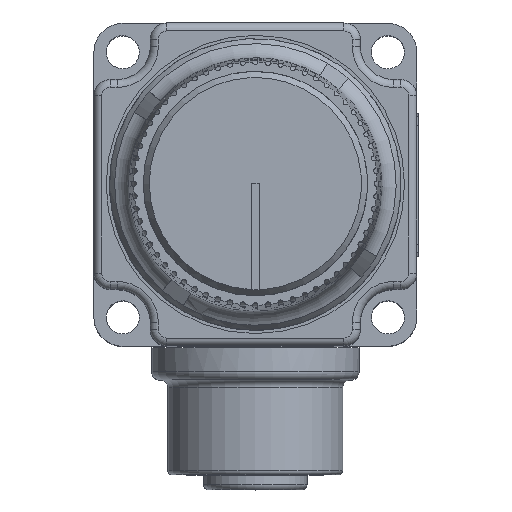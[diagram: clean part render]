
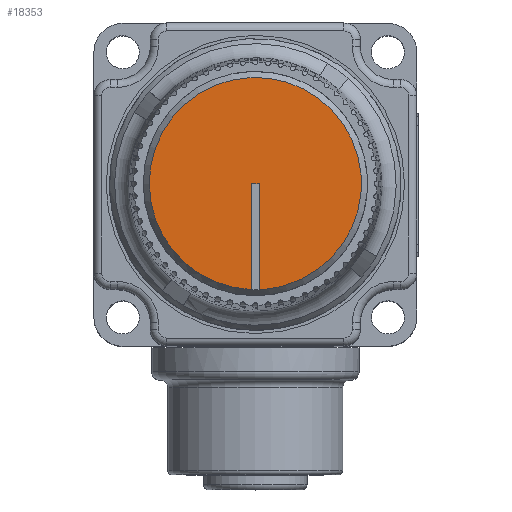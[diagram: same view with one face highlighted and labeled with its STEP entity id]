
A CAD part, top view. The second image highlights one B-rep face of the part: STEP entity #18353.
In plain terms, the highlighted planar face has unit normal (0, 0, 1).
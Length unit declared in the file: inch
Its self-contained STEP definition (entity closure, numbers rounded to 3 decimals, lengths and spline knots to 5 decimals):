
#921=PLANE('',#20000);
#1718=FACE_OUTER_BOUND('',#2792,.T.);
#2792=EDGE_LOOP('',(#14396,#14397,#14398,#14399,#14400));
#3669=CIRCLE('',#20001,0.4);
#3670=CIRCLE('',#20002,0.4);
#5105=LINE('',#30877,#6460);
#5106=LINE('',#30883,#6461);
#5107=LINE('',#30884,#6462);
#6460=VECTOR('',#24207,0.3937);
#6461=VECTOR('',#24212,0.3937);
#6462=VECTOR('',#24213,0.3937);
#7955=VERTEX_POINT('',#30875);
#7956=VERTEX_POINT('',#30876);
#7957=VERTEX_POINT('',#30878);
#7958=VERTEX_POINT('',#30880);
#7959=VERTEX_POINT('',#30882);
#10211=EDGE_CURVE('',#7955,#7956,#5105,.T.);
#10212=EDGE_CURVE('',#7956,#7957,#3669,.T.);
#10213=EDGE_CURVE('',#7957,#7958,#3670,.T.);
#10214=EDGE_CURVE('',#7958,#7959,#5106,.T.);
#10215=EDGE_CURVE('',#7959,#7955,#5107,.T.);
#14396=ORIENTED_EDGE('',*,*,#10211,.T.);
#14397=ORIENTED_EDGE('',*,*,#10212,.T.);
#14398=ORIENTED_EDGE('',*,*,#10213,.T.);
#14399=ORIENTED_EDGE('',*,*,#10214,.T.);
#14400=ORIENTED_EDGE('',*,*,#10215,.T.);
#18353=ADVANCED_FACE('',(#1718),#921,.T.);
#20000=AXIS2_PLACEMENT_3D('',#30874,#24205,#24206);
#20001=AXIS2_PLACEMENT_3D('',#30879,#24208,#24209);
#20002=AXIS2_PLACEMENT_3D('',#30881,#24210,#24211);
#24205=DIRECTION('center_axis',(0.,0.,1.));
#24206=DIRECTION('ref_axis',(1.,0.,0.));
#24207=DIRECTION('',(0.,-1.,0.));
#24208=DIRECTION('center_axis',(0.,0.,
1.));
#24209=DIRECTION('ref_axis',(0.325,0.946,0.));
#24210=DIRECTION('center_axis',(0.,0.,
1.));
#24211=DIRECTION('ref_axis',(0.325,0.946,0.));
#24212=DIRECTION('',(0.,1.,0.));
#24213=DIRECTION('',(1.,0.,0.));
#30874=CARTESIAN_POINT('Origin',(-0.78588,0.12872,1.82375));
#30875=CARTESIAN_POINT('',(-0.77088,0.52883,1.82375));
#30876=CARTESIAN_POINT('',(-0.77088,0.12911,1.82375));
#30877=CARTESIAN_POINT('',(-0.77088,0.52883,1.82375));
#30878=CARTESIAN_POINT('',(-0.6717,0.14547,1.82375));
#30879=CARTESIAN_POINT('Origin',(-0.78588,0.52883,1.82375));
#30880=CARTESIAN_POINT('',(-0.80088,0.12911,1.82375));
#30881=CARTESIAN_POINT('Origin',(-0.78588,0.52883,1.82375));
#30882=CARTESIAN_POINT('',(-0.80088,0.52883,1.82375));
#30883=CARTESIAN_POINT('',(-0.80088,0.12911,1.82375));
#30884=CARTESIAN_POINT('',(-0.80088,0.52883,1.82375));
